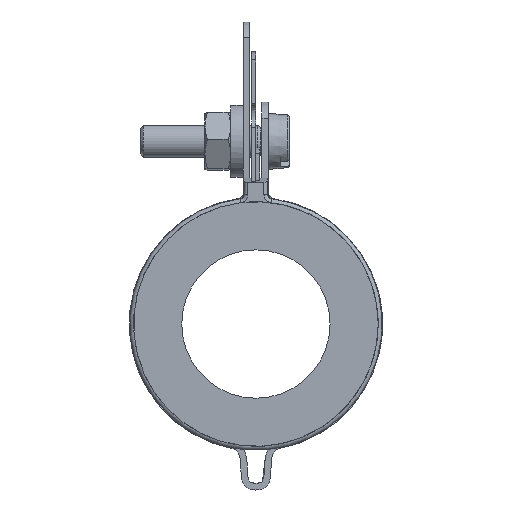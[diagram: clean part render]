
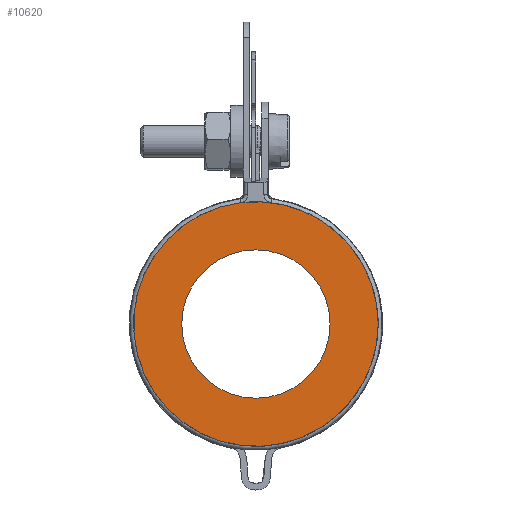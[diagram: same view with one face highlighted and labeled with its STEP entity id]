
A CAD part, front view. The second image highlights one B-rep face of the part: STEP entity #10620.
In plain terms, the highlighted planar face has unit normal (0, -1, 0).
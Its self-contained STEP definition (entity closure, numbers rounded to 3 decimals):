
#236=FACE_BOUND($,#2167,.T.);
#869=CIRCLE($,#11608,15.25);
#874=CIRCLE($,#11708,9.25);
#1445=FACE_OUTER_BOUND($,#2166,.T.);
#2166=EDGE_LOOP($,(#8941));
#2167=EDGE_LOOP($,(#8942));
#4787=VERTEX_POINT($,#17843);
#4798=VERTEX_POINT($,#17964);
#6168=EDGE_CURVE($,#4787,#4787,#869,.T.);
#6183=EDGE_CURVE($,#4798,#4798,#874,.T.);
#8941=ORIENTED_EDGE($,*,*,#6168,.T.);
#8942=ORIENTED_EDGE($,*,*,#6183,.T.);
#9443=PLANE($,#11711);
#10620=ADVANCED_FACE($,(#1445,#236),#9443,.T.);
#11608=AXIS2_PLACEMENT_3D($,#17844,#14494,#14495);
#11708=AXIS2_PLACEMENT_3D($,#17965,#14704,#14705);
#11711=AXIS2_PLACEMENT_3D($,#17968,#14710,#14711);
#14494=DIRECTION('center_axis',(0.,-1.,0.));
#14495=DIRECTION('ref_axis',(-1.,0.,0.));
#14704=DIRECTION('center_axis',(0.,1.,0.));
#14705=DIRECTION('ref_axis',(1.,0.,0.));
#14710=DIRECTION('center_axis',(0.,-1.,0.));
#14711=DIRECTION('ref_axis',(0.,0.,-1.));
#17843=CARTESIAN_POINT('',(15.25,0.,0.));
#17844=CARTESIAN_POINT('Origin',(0.,0.,0.));
#17964=CARTESIAN_POINT('',(-9.25,0.,0.));
#17965=CARTESIAN_POINT('Origin',(0.,0.,0.));
#17968=CARTESIAN_POINT('Origin',(0.,0.,0.));
